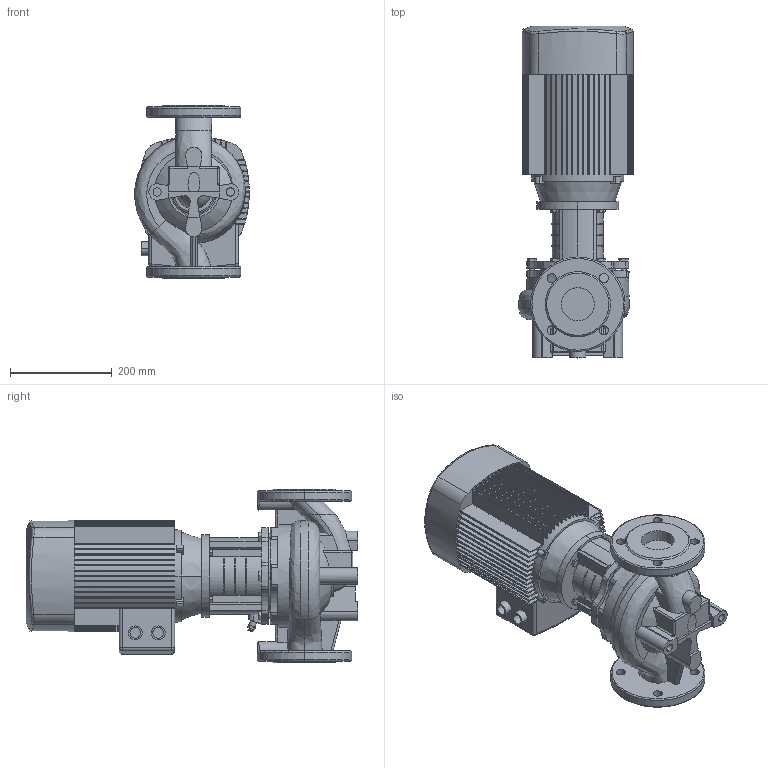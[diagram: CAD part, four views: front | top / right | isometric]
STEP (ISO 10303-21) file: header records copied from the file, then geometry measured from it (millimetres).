
FILE_DESCRIPTION(/* description */ (''),/* implementation_level */ '2;1');
FILE_NAME(/* name */ 'TD65-22-2安装尺寸图.stp',/* time_stamp */ '2026-09-07T15:42:17+08:00',/* author */ (''),/* organization */ (''),/* preprocessor_version */ 'ST-DEVELOPER v16.7',/* originating_system */ 'SIEMENS PLM Software NX 1847',/* authorisation */ '');
FILE_SCHEMA (('AP203_CONFIGURATION_CONTROLLED_3D_DESIGN_OF_MECHANICAL_PARTS_AND_ASSEMBLIES_MIM_LF { 1 0 10303 403 2 1 2}'));
Length unit declared in the file: millimetre
Products named in the file (1): Admi55F8EAC4z28l
Bounding box: 225.01 x 651.5 x 340 mm (x, y, z)
Volume: 19479887.8 mm3; surface area: 1191104.6 mm2
Topology: 1 solids, 7 shells, 1008 faces, 2698 edges, 1741 vertices
Faces by surface type: plane 549, cylinder 266, cone 79, torus 59, bspline 49, sphere 6
Full cylindrical faces by diameter (mm): 7.76 x4, 8 x1, 9.732 x6, 10 x1, 11.63 x4, 12.9 x1, 14.63 x6, 150 x1
Entity records: 38896 total; most frequent: CARTESIAN_POINT 14089, ORIENTED_EDGE 5260, DIRECTION 5036, EDGE_CURVE 2630, AXIS2_PLACEMENT_3D 1851, VERTEX_POINT 1717, LINE 1334, VECTOR 1334
